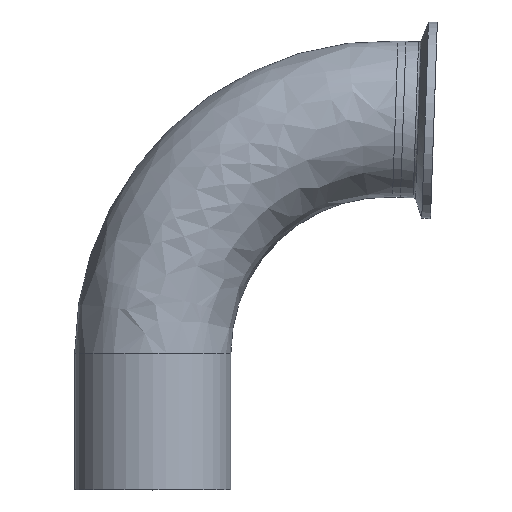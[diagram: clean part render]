
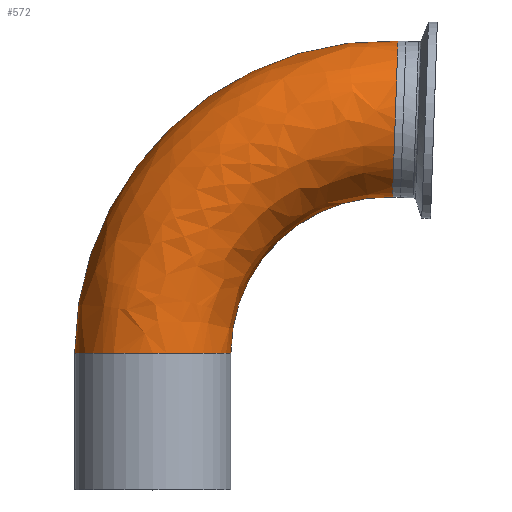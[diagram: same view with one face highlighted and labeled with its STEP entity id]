
A CAD part, top view. The second image highlights one B-rep face of the part: STEP entity #572.
In plain terms, the highlighted free-form (B-spline) face has degree [3, 3] with [4, 4] control points.
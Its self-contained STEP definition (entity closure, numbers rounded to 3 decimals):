
#23 = VERTEX_POINT ( 'NONE', #1591 ) ;
#63 =( BOUNDED_SURFACE ( )  B_SPLINE_SURFACE ( 3, 3, ( 
 ( #673, #1006, #1577, #1092 ),
 ( #1126, #1120, #1172, #1103 ),
 ( #1244, #985, #1299, #1308 ),
 ( #1315, #1258, #1272, #1237 ) ),
 .UNSPECIFIED., .F., .F., .F. ) 
 B_SPLINE_SURFACE_WITH_KNOTS ( ( 4, 4 ),
 ( 4, 4 ),
 ( 0., 1. ),
 ( 0., 1. ),
 .UNSPECIFIED. ) 
 GEOMETRIC_REPRESENTATION_ITEM ( )  RATIONAL_B_SPLINE_SURFACE ( (
 ( 1., 0.796, 0.796, 1.),
 ( 0.333, 0.265, 0.265, 0.333),
 ( 0.333, 0.265, 0.265, 0.333),
 ( 1., 0.796, 0.796, 1.) ) ) 
 REPRESENTATION_ITEM ( '' )  SURFACE ( )  );
#160 = EDGE_CURVE ( 'NONE', #1188, #1135, #1087, .T. ) ;
#172 = CIRCLE ( 'NONE', #1645, 101.6 ) ;
#365 = EDGE_CURVE ( 'NONE', #23, #1188, #1124, .T. ) ;
#422 = CARTESIAN_POINT ( 'NONE',  ( 77.973, 95.195, 0. ) ) ;
#444 = CARTESIAN_POINT ( 'NONE',  ( 79.746, 145.964, 0. ) ) ;
#572 = ADVANCED_FACE ( 'NONE', ( #1685 ), #63, .T. ) ;
#613 = AXIS2_PLACEMENT_3D ( 'NONE', #1683, #1691, #1693 ) ;
#673 = CARTESIAN_POINT ( 'NONE',  ( -25.4, 44.426, 0. ) ) ;
#676 = EDGE_LOOP ( 'NONE', ( #1251, #949, #734, #1048 ) ) ;
#734 = ORIENTED_EDGE ( 'NONE', *, *, #1718, .T. ) ;
#899 = EDGE_CURVE ( 'NONE', #23, #1390, #172, .T. ) ;
#949 = ORIENTED_EDGE ( 'NONE', *, *, #160, .T. ) ;
#985 = CARTESIAN_POINT ( 'NONE',  ( 25.4, 75.014, 50.8 ) ) ;
#1006 = CARTESIAN_POINT ( 'NONE',  ( -25.4, 105.602, 0. ) ) ;
#1007 = CARTESIAN_POINT ( 'NONE',  ( 0., 44.426, 0. ) ) ;
#1024 = DIRECTION ( 'NONE',  ( 0., 1., 0. ) ) ;
#1048 = ORIENTED_EDGE ( 'NONE', *, *, #899, .F. ) ;
#1050 = DIRECTION ( 'NONE',  ( -1., 0., 0. ) ) ;
#1067 = AXIS2_PLACEMENT_3D ( 'NONE', #1007, #1024, #1050 ) ;
#1087 = CIRCLE ( 'NONE', #613, 50.8 ) ;
#1092 = CARTESIAN_POINT ( 'NONE',  ( 79.746, 145.964, 0. ) ) ;
#1103 = CARTESIAN_POINT ( 'NONE',  ( 79.746, 145.964, 50.8 ) ) ;
#1120 = CARTESIAN_POINT ( 'NONE',  ( -25.4, 105.602, 50.8 ) ) ;
#1124 = CIRCLE ( 'NONE', #1067, 25.4 ) ;
#1126 = CARTESIAN_POINT ( 'NONE',  ( -25.4, 44.426, 50.8 ) ) ;
#1135 = VERTEX_POINT ( 'NONE', #422 ) ;
#1172 = CARTESIAN_POINT ( 'NONE',  ( 18.607, 148.099, 50.8 ) ) ;
#1188 = VERTEX_POINT ( 'NONE', #1765 ) ;
#1237 = CARTESIAN_POINT ( 'NONE',  ( 77.973, 95.195, 0. ) ) ;
#1239 = AXIS2_PLACEMENT_3D ( 'NONE', #1696, #1709, #1714 ) ;
#1244 = CARTESIAN_POINT ( 'NONE',  ( 25.4, 44.426, 50.8 ) ) ;
#1251 = ORIENTED_EDGE ( 'NONE', *, *, #365, .T. ) ;
#1253 = CIRCLE ( 'NONE', #1239, 25.4 ) ;
#1258 = CARTESIAN_POINT ( 'NONE',  ( 25.4, 75.014, 0. ) ) ;
#1272 = CARTESIAN_POINT ( 'NONE',  ( 47.403, 96.262, 0. ) ) ;
#1299 = CARTESIAN_POINT ( 'NONE',  ( 47.403, 96.262, 50.8 ) ) ;
#1308 = CARTESIAN_POINT ( 'NONE',  ( 77.973, 95.195, 50.8 ) ) ;
#1315 = CARTESIAN_POINT ( 'NONE',  ( 25.4, 44.426, 0. ) ) ;
#1390 = VERTEX_POINT ( 'NONE', #444 ) ;
#1468 = DIRECTION ( 'NONE',  ( -1., 0., 0. ) ) ;
#1474 = DIRECTION ( 'NONE',  ( 0., 0., -1. ) ) ;
#1488 = CARTESIAN_POINT ( 'NONE',  ( 76.2, 44.426, 0. ) ) ;
#1577 = CARTESIAN_POINT ( 'NONE',  ( 18.607, 148.099, 0. ) ) ;
#1591 = CARTESIAN_POINT ( 'NONE',  ( -25.4, 44.426, 0. ) ) ;
#1645 = AXIS2_PLACEMENT_3D ( 'NONE', #1488, #1474, #1468 ) ;
#1683 = CARTESIAN_POINT ( 'NONE',  ( 76.2, 44.426, 0. ) ) ;
#1685 = FACE_OUTER_BOUND ( 'NONE', #676, .T. ) ;
#1691 = DIRECTION ( 'NONE',  ( 0., 0., -1. ) ) ;
#1693 = DIRECTION ( 'NONE',  ( -1., 0., 0. ) ) ;
#1696 = CARTESIAN_POINT ( 'NONE',  ( 78.859, 120.579, 0. ) ) ;
#1709 = DIRECTION ( 'NONE',  ( -0.999, 0.035, 0. ) ) ;
#1714 = DIRECTION ( 'NONE',  ( 0.035, 0.999, 0. ) ) ;
#1718 = EDGE_CURVE ( 'NONE', #1135, #1390, #1253, .T. ) ;
#1765 = CARTESIAN_POINT ( 'NONE',  ( 25.4, 44.426, 0. ) ) ;
